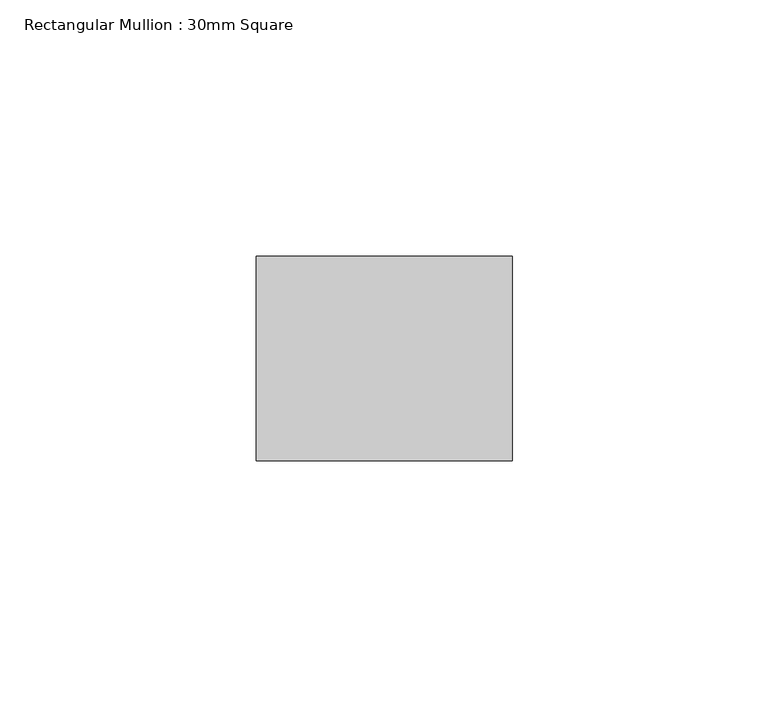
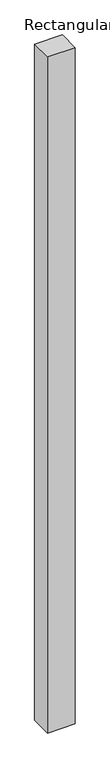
"""IFC4 building model written with IfcOpenShell, lengths in millimetres: member geometry, Rectangular Mullion : 30mm Square."""

from ifc_helpers import new_model, si_unit, frame, origin, place, context, project, spatial, polyline, outline, extrude, source, transform, mapped, element, save


def rectangular_mullion_30mm_square_0e317346(model_context):
    return source(origin(), model_context, "Body", "SweptSolid", [
        extrude(outline(polyline([(0.0, 20.0), (0.0, -20.0), (-50.0, -20.0), (-50.0, 20.0), (0.0, 20.0)])), frame((0.0, 0.0, -1287.5644347), z_axis=(0.0, 0.0, 1.0), x_axis=(1.0, 0.0, 0.0)), (0.0, 0.0, 1.0), 1287.5644347),
    ])


if __name__ == "__main__":
    model = new_model("IFC4")
    model_context = context("Model", 3, world=origin())
    ifc_project = project(units=[si_unit("LENGTHUNIT", "METRE", prefix="MILLI")], contexts=[model_context])
    site = spatial("IfcSite", under=ifc_project)
    building = spatial("IfcBuilding", under=site)
    placement = place(None, origin())
    rectangular_mullion_30mm_square_shape = rectangular_mullion_30mm_square_0e317346(model_context)
    element("IfcMember", 1, ObjectType="Rectangular Mullion : 30mm Square", at=placement, inside=building, context=model_context, shape_type="MappedRepresentation", body=[
        mapped(rectangular_mullion_30mm_square_shape, transform((0.0, 0.0, 0.0), x_axis=(1.0, 0.0, 0.0), y_axis=(0.0, 1.0, 0.0), z_axis=(0.0, 0.0, 1.0))),
    ])
    save(model, "model.ifc")
